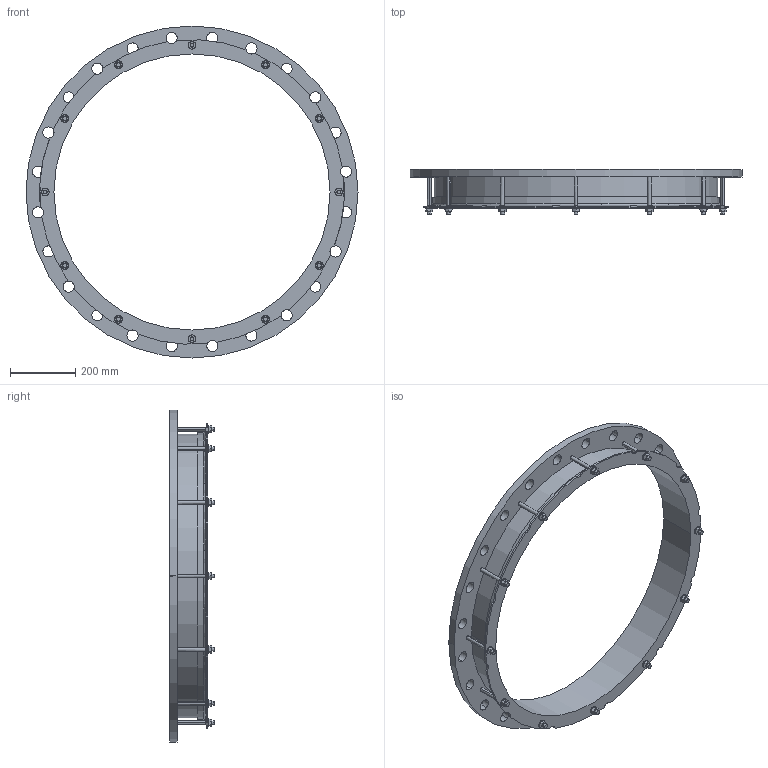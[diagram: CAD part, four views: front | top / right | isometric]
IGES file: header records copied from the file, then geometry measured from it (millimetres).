
Start section:  PTC IGES file: 842x800pn10_12not.igs
Global section: file name: 842x800pn10_12not.igs; native system: Creo Parametric by PTC Inc.; preprocessor: 2016130; author: mfairey; organization: Unknown; date: 20190116.145738; units: millimetre
Bounding box: 1015 x 137.45 x 1015 mm (x, y, z)
Surface area: 1371682.6 mm2 (no closed solid volume)
Topology: 0 solids, 0 shells, 268 faces, 1436 edges, 1436 vertices
Faces by surface type: revolution 156, bspline 112
